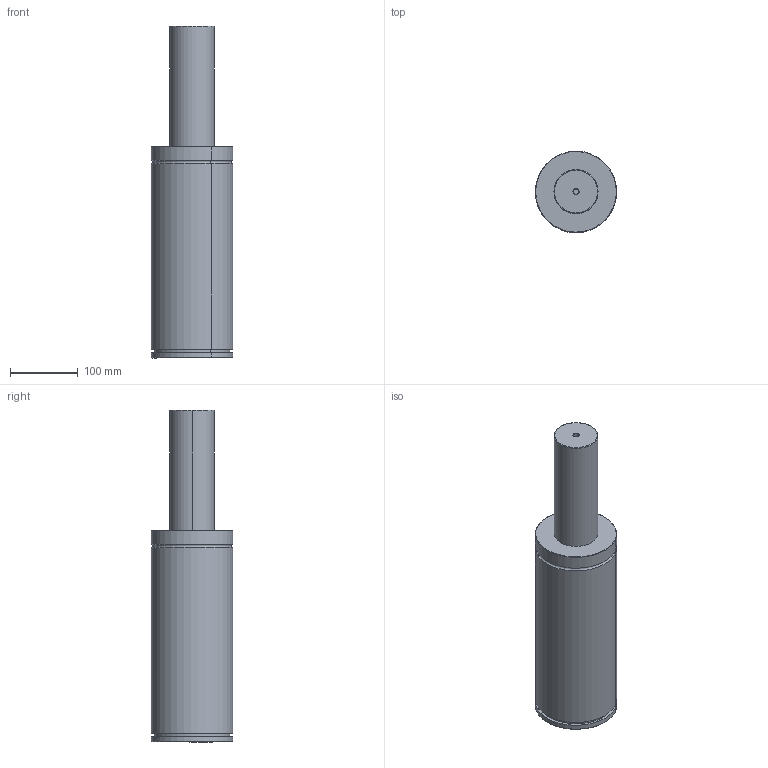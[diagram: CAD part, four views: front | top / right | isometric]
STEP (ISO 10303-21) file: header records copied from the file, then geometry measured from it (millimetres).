
FILE_DESCRIPTION(('CATIA V5 STEP Exchange'),'2;1');
FILE_NAME('W:\LIBRERIA TECAPRES®\FICHEROS CAD\TPS\TPS 5000\TPS 5000x175.stp','2018-07-12T06:52:11+00:00',('none'),('none'),'CATIA Version 5 Release 17 (IN-10)','CATIA V5 STEP AP203','none');
FILE_SCHEMA(('CONFIG_CONTROL_DESIGN'));
Length unit declared in the file: millimetre
Products named in the file (1): Part1
Bounding box: 119.97 x 119.97 x 490 mm (x, y, z)
Volume: 4102444.2 mm3; surface area: 182224.7 mm2
Topology: 1 solids, 1 shells, 48 faces, 94 edges, 56 vertices
Faces by surface type: cylinder 20, cone 14, plane 10, torus 4
Entity records: 1115 total; most frequent: ORIENTED_EDGE 188, CARTESIAN_POINT 178, DIRECTION 148, EDGE_CURVE 94, AXIS2_PLACEMENT_3D 88, CIRCLE 60, EDGE_LOOP 56, VERTEX_POINT 56
